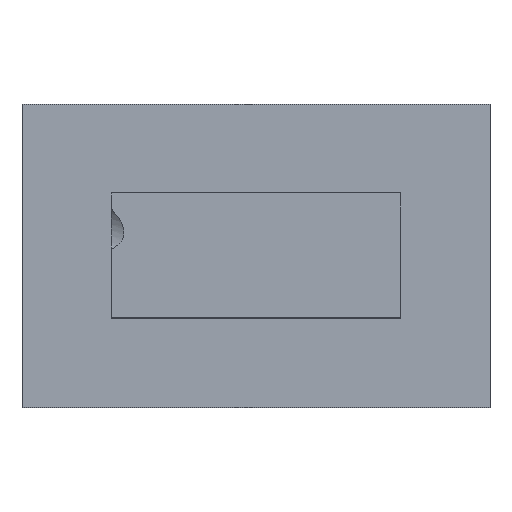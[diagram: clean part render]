
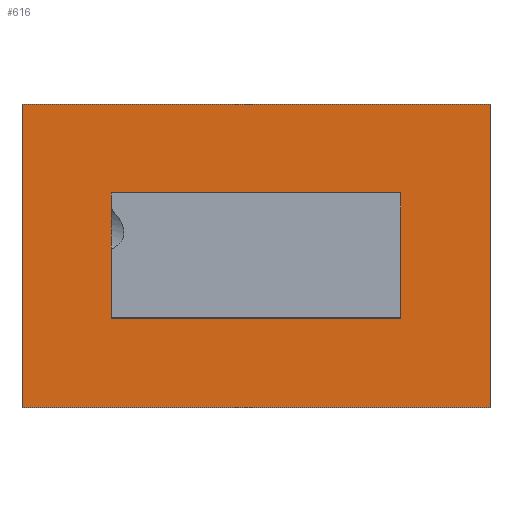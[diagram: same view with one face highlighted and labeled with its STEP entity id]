
A CAD part, top view. The second image highlights one B-rep face of the part: STEP entity #616.
In plain terms, the highlighted planar face has unit normal (0, 0, 1).
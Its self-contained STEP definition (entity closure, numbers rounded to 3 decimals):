
#24 = VERTEX_POINT('',#25);
#25 = CARTESIAN_POINT('',(2.,4.8,2.));
#32 = PLANE('',#33);
#33 = AXIS2_PLACEMENT_3D('',#34,#35,#36);
#34 = CARTESIAN_POINT('',(2.,4.8,9.85));
#35 = DIRECTION('',(1.,0.,0.));
#36 = DIRECTION('',(0.,0.,-1.));
#44 = PLANE('',#45);
#45 = AXIS2_PLACEMENT_3D('',#46,#47,#48);
#46 = CARTESIAN_POINT('',(2.,4.8,9.85));
#47 = DIRECTION('',(0.,-1.,0.));
#48 = DIRECTION('',(0.,0.,-1.));
#148 = VERTEX_POINT('',#149);
#149 = CARTESIAN_POINT('',(2.,2.,2.));
#163 = PLANE('',#164);
#164 = AXIS2_PLACEMENT_3D('',#165,#166,#167);
#165 = CARTESIAN_POINT('',(2.,2.,9.85));
#166 = DIRECTION('',(0.,-1.,0.));
#167 = DIRECTION('',(0.,0.,-1.));
#175 = EDGE_CURVE('',#24,#148,#176,.T.);
#176 = SURFACE_CURVE('',#177,(#181,#188),.PCURVE_S1.);
#177 = LINE('',#178,#179);
#178 = CARTESIAN_POINT('',(2.,4.8,2.));
#179 = VECTOR('',#180,1.);
#180 = DIRECTION('',(0.,-1.,0.));
#181 = PCURVE('',#32,#182);
#182 = DEFINITIONAL_REPRESENTATION('',(#183),#187);
#183 = LINE('',#184,#185);
#184 = CARTESIAN_POINT('',(7.85,0.));
#185 = VECTOR('',#186,1.);
#186 = DIRECTION('',(0.,-1.));
#187 = ( GEOMETRIC_REPRESENTATION_CONTEXT(2) 
PARAMETRIC_REPRESENTATION_CONTEXT() REPRESENTATION_CONTEXT('2D SPACE',''
  ) );
#188 = PCURVE('',#189,#194);
#189 = PLANE('',#190);
#190 = AXIS2_PLACEMENT_3D('',#191,#192,#193);
#191 = CARTESIAN_POINT('',(0.,6.8,2.));
#192 = DIRECTION('',(0.,0.,-1.));
#193 = DIRECTION('',(1.,0.,0.));
#194 = DEFINITIONAL_REPRESENTATION('',(#195),#199);
#195 = LINE('',#196,#197);
#196 = CARTESIAN_POINT('',(2.,2.));
#197 = VECTOR('',#198,1.);
#198 = DIRECTION('',(0.,1.));
#199 = ( GEOMETRIC_REPRESENTATION_CONTEXT(2) 
PARAMETRIC_REPRESENTATION_CONTEXT() REPRESENTATION_CONTEXT('2D SPACE',''
  ) );
#228 = EDGE_CURVE('',#24,#229,#231,.T.);
#229 = VERTEX_POINT('',#230);
#230 = CARTESIAN_POINT('',(8.5,4.8,2.));
#231 = SURFACE_CURVE('',#232,(#236,#243),.PCURVE_S1.);
#232 = LINE('',#233,#234);
#233 = CARTESIAN_POINT('',(2.,4.8,2.));
#234 = VECTOR('',#235,1.);
#235 = DIRECTION('',(1.,0.,0.));
#236 = PCURVE('',#44,#237);
#237 = DEFINITIONAL_REPRESENTATION('',(#238),#242);
#238 = LINE('',#239,#240);
#239 = CARTESIAN_POINT('',(7.85,0.));
#240 = VECTOR('',#241,1.);
#241 = DIRECTION('',(0.,1.));
#242 = ( GEOMETRIC_REPRESENTATION_CONTEXT(2) 
PARAMETRIC_REPRESENTATION_CONTEXT() REPRESENTATION_CONTEXT('2D SPACE',''
  ) );
#243 = PCURVE('',#189,#244);
#244 = DEFINITIONAL_REPRESENTATION('',(#245),#249);
#245 = LINE('',#246,#247);
#246 = CARTESIAN_POINT('',(2.,2.));
#247 = VECTOR('',#248,1.);
#248 = DIRECTION('',(1.,0.));
#249 = ( GEOMETRIC_REPRESENTATION_CONTEXT(2) 
PARAMETRIC_REPRESENTATION_CONTEXT() REPRESENTATION_CONTEXT('2D SPACE',''
  ) );
#265 = PLANE('',#266);
#266 = AXIS2_PLACEMENT_3D('',#267,#268,#269);
#267 = CARTESIAN_POINT('',(8.5,4.8,9.85));
#268 = DIRECTION('',(1.,0.,0.));
#269 = DIRECTION('',(0.,0.,-1.));
#479 = EDGE_CURVE('',#148,#480,#482,.T.);
#480 = VERTEX_POINT('',#481);
#481 = CARTESIAN_POINT('',(8.5,2.,2.));
#482 = SURFACE_CURVE('',#483,(#487,#494),.PCURVE_S1.);
#483 = LINE('',#484,#485);
#484 = CARTESIAN_POINT('',(2.,2.,2.));
#485 = VECTOR('',#486,1.);
#486 = DIRECTION('',(1.,0.,0.));
#487 = PCURVE('',#163,#488);
#488 = DEFINITIONAL_REPRESENTATION('',(#489),#493);
#489 = LINE('',#490,#491);
#490 = CARTESIAN_POINT('',(7.85,0.));
#491 = VECTOR('',#492,1.);
#492 = DIRECTION('',(0.,1.));
#493 = ( GEOMETRIC_REPRESENTATION_CONTEXT(2) 
PARAMETRIC_REPRESENTATION_CONTEXT() REPRESENTATION_CONTEXT('2D SPACE',''
  ) );
#494 = PCURVE('',#189,#495);
#495 = DEFINITIONAL_REPRESENTATION('',(#496),#500);
#496 = LINE('',#497,#498);
#497 = CARTESIAN_POINT('',(2.,4.8));
#498 = VECTOR('',#499,1.);
#499 = DIRECTION('',(1.,0.));
#500 = ( GEOMETRIC_REPRESENTATION_CONTEXT(2) 
PARAMETRIC_REPRESENTATION_CONTEXT() REPRESENTATION_CONTEXT('2D SPACE',''
  ) );
#616 = ADVANCED_FACE('',(#617,#731),#189,.F.);
#617 = FACE_BOUND('',#618,.F.);
#618 = EDGE_LOOP('',(#619,#649,#677,#705));
#619 = ORIENTED_EDGE('',*,*,#620,.F.);
#620 = EDGE_CURVE('',#621,#623,#625,.T.);
#621 = VERTEX_POINT('',#622);
#622 = CARTESIAN_POINT('',(0.,6.8,2.));
#623 = VERTEX_POINT('',#624);
#624 = CARTESIAN_POINT('',(0.,0.,2.));
#625 = SURFACE_CURVE('',#626,(#630,#637),.PCURVE_S1.);
#626 = LINE('',#627,#628);
#627 = CARTESIAN_POINT('',(0.,6.8,2.));
#628 = VECTOR('',#629,1.);
#629 = DIRECTION('',(0.,-1.,0.));
#630 = PCURVE('',#189,#631);
#631 = DEFINITIONAL_REPRESENTATION('',(#632),#636);
#632 = LINE('',#633,#634);
#633 = CARTESIAN_POINT('',(0.,0.));
#634 = VECTOR('',#635,1.);
#635 = DIRECTION('',(0.,1.));
#636 = ( GEOMETRIC_REPRESENTATION_CONTEXT(2) 
PARAMETRIC_REPRESENTATION_CONTEXT() REPRESENTATION_CONTEXT('2D SPACE',''
  ) );
#637 = PCURVE('',#638,#643);
#638 = PLANE('',#639);
#639 = AXIS2_PLACEMENT_3D('',#640,#641,#642);
#640 = CARTESIAN_POINT('',(0.,6.8,2.));
#641 = DIRECTION('',(1.,0.,0.));
#642 = DIRECTION('',(0.,0.,-1.));
#643 = DEFINITIONAL_REPRESENTATION('',(#644),#648);
#644 = LINE('',#645,#646);
#645 = CARTESIAN_POINT('',(0.,0.));
#646 = VECTOR('',#647,1.);
#647 = DIRECTION('',(0.,-1.));
#648 = ( GEOMETRIC_REPRESENTATION_CONTEXT(2) 
PARAMETRIC_REPRESENTATION_CONTEXT() REPRESENTATION_CONTEXT('2D SPACE',''
  ) );
#649 = ORIENTED_EDGE('',*,*,#650,.T.);
#650 = EDGE_CURVE('',#621,#651,#653,.T.);
#651 = VERTEX_POINT('',#652);
#652 = CARTESIAN_POINT('',(10.5,6.8,2.));
#653 = SURFACE_CURVE('',#654,(#658,#665),.PCURVE_S1.);
#654 = LINE('',#655,#656);
#655 = CARTESIAN_POINT('',(0.,6.8,2.));
#656 = VECTOR('',#657,1.);
#657 = DIRECTION('',(1.,0.,0.));
#658 = PCURVE('',#189,#659);
#659 = DEFINITIONAL_REPRESENTATION('',(#660),#664);
#660 = LINE('',#661,#662);
#661 = CARTESIAN_POINT('',(0.,0.));
#662 = VECTOR('',#663,1.);
#663 = DIRECTION('',(1.,0.));
#664 = ( GEOMETRIC_REPRESENTATION_CONTEXT(2) 
PARAMETRIC_REPRESENTATION_CONTEXT() REPRESENTATION_CONTEXT('2D SPACE',''
  ) );
#665 = PCURVE('',#666,#671);
#666 = PLANE('',#667);
#667 = AXIS2_PLACEMENT_3D('',#668,#669,#670);
#668 = CARTESIAN_POINT('',(0.,6.8,2.));
#669 = DIRECTION('',(0.,-1.,0.));
#670 = DIRECTION('',(0.,0.,-1.));
#671 = DEFINITIONAL_REPRESENTATION('',(#672),#676);
#672 = LINE('',#673,#674);
#673 = CARTESIAN_POINT('',(0.,0.));
#674 = VECTOR('',#675,1.);
#675 = DIRECTION('',(0.,1.));
#676 = ( GEOMETRIC_REPRESENTATION_CONTEXT(2) 
PARAMETRIC_REPRESENTATION_CONTEXT() REPRESENTATION_CONTEXT('2D SPACE',''
  ) );
#677 = ORIENTED_EDGE('',*,*,#678,.T.);
#678 = EDGE_CURVE('',#651,#679,#681,.T.);
#679 = VERTEX_POINT('',#680);
#680 = CARTESIAN_POINT('',(10.5,0.,2.));
#681 = SURFACE_CURVE('',#682,(#686,#693),.PCURVE_S1.);
#682 = LINE('',#683,#684);
#683 = CARTESIAN_POINT('',(10.5,6.8,2.));
#684 = VECTOR('',#685,1.);
#685 = DIRECTION('',(0.,-1.,0.));
#686 = PCURVE('',#189,#687);
#687 = DEFINITIONAL_REPRESENTATION('',(#688),#692);
#688 = LINE('',#689,#690);
#689 = CARTESIAN_POINT('',(10.5,0.));
#690 = VECTOR('',#691,1.);
#691 = DIRECTION('',(0.,1.));
#692 = ( GEOMETRIC_REPRESENTATION_CONTEXT(2) 
PARAMETRIC_REPRESENTATION_CONTEXT() REPRESENTATION_CONTEXT('2D SPACE',''
  ) );
#693 = PCURVE('',#694,#699);
#694 = PLANE('',#695);
#695 = AXIS2_PLACEMENT_3D('',#696,#697,#698);
#696 = CARTESIAN_POINT('',(10.5,6.8,2.));
#697 = DIRECTION('',(1.,0.,0.));
#698 = DIRECTION('',(0.,0.,-1.));
#699 = DEFINITIONAL_REPRESENTATION('',(#700),#704);
#700 = LINE('',#701,#702);
#701 = CARTESIAN_POINT('',(0.,0.));
#702 = VECTOR('',#703,1.);
#703 = DIRECTION('',(0.,-1.));
#704 = ( GEOMETRIC_REPRESENTATION_CONTEXT(2) 
PARAMETRIC_REPRESENTATION_CONTEXT() REPRESENTATION_CONTEXT('2D SPACE',''
  ) );
#705 = ORIENTED_EDGE('',*,*,#706,.F.);
#706 = EDGE_CURVE('',#623,#679,#707,.T.);
#707 = SURFACE_CURVE('',#708,(#712,#719),.PCURVE_S1.);
#708 = LINE('',#709,#710);
#709 = CARTESIAN_POINT('',(0.,0.,2.));
#710 = VECTOR('',#711,1.);
#711 = DIRECTION('',(1.,0.,0.));
#712 = PCURVE('',#189,#713);
#713 = DEFINITIONAL_REPRESENTATION('',(#714),#718);
#714 = LINE('',#715,#716);
#715 = CARTESIAN_POINT('',(0.,6.8));
#716 = VECTOR('',#717,1.);
#717 = DIRECTION('',(1.,0.));
#718 = ( GEOMETRIC_REPRESENTATION_CONTEXT(2) 
PARAMETRIC_REPRESENTATION_CONTEXT() REPRESENTATION_CONTEXT('2D SPACE',''
  ) );
#719 = PCURVE('',#720,#725);
#720 = PLANE('',#721);
#721 = AXIS2_PLACEMENT_3D('',#722,#723,#724);
#722 = CARTESIAN_POINT('',(0.,0.,2.));
#723 = DIRECTION('',(0.,-1.,0.));
#724 = DIRECTION('',(0.,0.,-1.));
#725 = DEFINITIONAL_REPRESENTATION('',(#726),#730);
#726 = LINE('',#727,#728);
#727 = CARTESIAN_POINT('',(0.,0.));
#728 = VECTOR('',#729,1.);
#729 = DIRECTION('',(0.,1.));
#730 = ( GEOMETRIC_REPRESENTATION_CONTEXT(2) 
PARAMETRIC_REPRESENTATION_CONTEXT() REPRESENTATION_CONTEXT('2D SPACE',''
  ) );
#731 = FACE_BOUND('',#732,.F.);
#732 = EDGE_LOOP('',(#733,#734,#735,#736));
#733 = ORIENTED_EDGE('',*,*,#228,.F.);
#734 = ORIENTED_EDGE('',*,*,#175,.T.);
#735 = ORIENTED_EDGE('',*,*,#479,.T.);
#736 = ORIENTED_EDGE('',*,*,#737,.F.);
#737 = EDGE_CURVE('',#229,#480,#738,.T.);
#738 = SURFACE_CURVE('',#739,(#743,#750),.PCURVE_S1.);
#739 = LINE('',#740,#741);
#740 = CARTESIAN_POINT('',(8.5,4.8,2.));
#741 = VECTOR('',#742,1.);
#742 = DIRECTION('',(0.,-1.,0.));
#743 = PCURVE('',#189,#744);
#744 = DEFINITIONAL_REPRESENTATION('',(#745),#749);
#745 = LINE('',#746,#747);
#746 = CARTESIAN_POINT('',(8.5,2.));
#747 = VECTOR('',#748,1.);
#748 = DIRECTION('',(0.,1.));
#749 = ( GEOMETRIC_REPRESENTATION_CONTEXT(2) 
PARAMETRIC_REPRESENTATION_CONTEXT() REPRESENTATION_CONTEXT('2D SPACE',''
  ) );
#750 = PCURVE('',#265,#751);
#751 = DEFINITIONAL_REPRESENTATION('',(#752),#756);
#752 = LINE('',#753,#754);
#753 = CARTESIAN_POINT('',(7.85,0.));
#754 = VECTOR('',#755,1.);
#755 = DIRECTION('',(0.,-1.));
#756 = ( GEOMETRIC_REPRESENTATION_CONTEXT(2) 
PARAMETRIC_REPRESENTATION_CONTEXT() REPRESENTATION_CONTEXT('2D SPACE',''
  ) );
